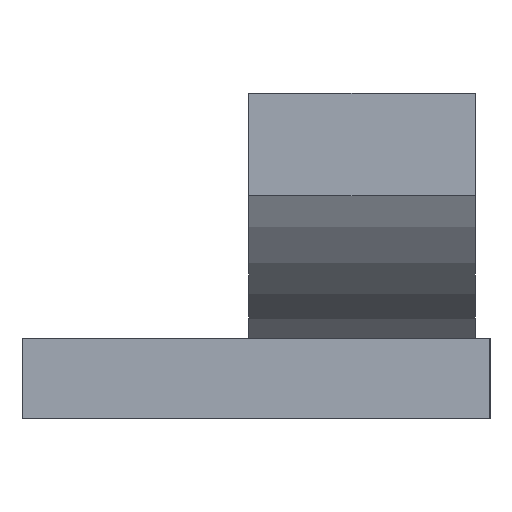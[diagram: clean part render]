
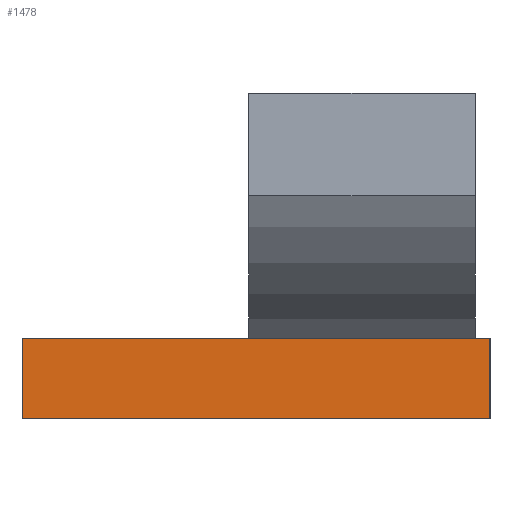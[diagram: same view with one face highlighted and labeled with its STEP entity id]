
A CAD part, left-side view. The second image highlights one B-rep face of the part: STEP entity #1478.
In plain terms, the highlighted planar face has unit normal (-1, 0, 0).
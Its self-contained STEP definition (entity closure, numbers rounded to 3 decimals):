
#157 = PLANE('',#158);
#158 = AXIS2_PLACEMENT_3D('',#159,#160,#161);
#159 = CARTESIAN_POINT('',(18.5,-26.4,36.));
#160 = DIRECTION('',(0.,0.,1.));
#161 = DIRECTION('',(1.,0.,0.));
#624 = EDGE_CURVE('',#625,#627,#629,.T.);
#625 = VERTEX_POINT('',#626);
#626 = CARTESIAN_POINT('',(18.5,-26.4,36.));
#627 = VERTEX_POINT('',#628);
#628 = CARTESIAN_POINT('',(18.5,-13.6,36.));
#629 = SURFACE_CURVE('',#630,(#634,#641),.PCURVE_S1.);
#630 = LINE('',#631,#632);
#631 = CARTESIAN_POINT('',(18.5,-26.4,36.));
#632 = VECTOR('',#633,1.);
#633 = DIRECTION('',(0.,1.,0.));
#634 = PCURVE('',#157,#635);
#635 = DEFINITIONAL_REPRESENTATION('',(#636),#640);
#636 = LINE('',#637,#638);
#637 = CARTESIAN_POINT('',(0.,0.));
#638 = VECTOR('',#639,1.);
#639 = DIRECTION('',(0.,1.));
#640 = ( GEOMETRIC_REPRESENTATION_CONTEXT(2) 
PARAMETRIC_REPRESENTATION_CONTEXT() REPRESENTATION_CONTEXT('2D SPACE',''
  ) );
#641 = PCURVE('',#642,#647);
#642 = PLANE('',#643);
#643 = AXIS2_PLACEMENT_3D('',#644,#645,#646);
#644 = CARTESIAN_POINT('',(18.5,-26.4,33.8));
#645 = DIRECTION('',(1.,0.,0.));
#646 = DIRECTION('',(0.,0.,1.));
#647 = DEFINITIONAL_REPRESENTATION('',(#648),#652);
#648 = LINE('',#649,#650);
#649 = CARTESIAN_POINT('',(2.2,0.));
#650 = VECTOR('',#651,1.);
#651 = DIRECTION('',(0.,-1.));
#652 = ( GEOMETRIC_REPRESENTATION_CONTEXT(2) 
PARAMETRIC_REPRESENTATION_CONTEXT() REPRESENTATION_CONTEXT('2D SPACE',''
  ) );
#670 = PLANE('',#671);
#671 = AXIS2_PLACEMENT_3D('',#672,#673,#674);
#672 = CARTESIAN_POINT('',(18.5,-26.4,33.8));
#673 = DIRECTION('',(0.,1.,0.));
#674 = DIRECTION('',(0.,0.,1.));
#724 = PLANE('',#725);
#725 = AXIS2_PLACEMENT_3D('',#726,#727,#728);
#726 = CARTESIAN_POINT('',(18.5,-13.6,33.8));
#727 = DIRECTION('',(0.,1.,0.));
#728 = DIRECTION('',(0.,0.,1.));
#1478 = ADVANCED_FACE('',(#1479),#642,.F.);
#1479 = FACE_BOUND('',#1480,.F.);
#1480 = EDGE_LOOP('',(#1481,#1504,#1532,#1553));
#1481 = ORIENTED_EDGE('',*,*,#1482,.F.);
#1482 = EDGE_CURVE('',#1483,#625,#1485,.T.);
#1483 = VERTEX_POINT('',#1484);
#1484 = CARTESIAN_POINT('',(18.5,-26.4,33.8));
#1485 = SURFACE_CURVE('',#1486,(#1490,#1497),.PCURVE_S1.);
#1486 = LINE('',#1487,#1488);
#1487 = CARTESIAN_POINT('',(18.5,-26.4,33.8));
#1488 = VECTOR('',#1489,1.);
#1489 = DIRECTION('',(0.,0.,1.));
#1490 = PCURVE('',#642,#1491);
#1491 = DEFINITIONAL_REPRESENTATION('',(#1492),#1496);
#1492 = LINE('',#1493,#1494);
#1493 = CARTESIAN_POINT('',(0.,0.));
#1494 = VECTOR('',#1495,1.);
#1495 = DIRECTION('',(1.,0.));
#1496 = ( GEOMETRIC_REPRESENTATION_CONTEXT(2) 
PARAMETRIC_REPRESENTATION_CONTEXT() REPRESENTATION_CONTEXT('2D SPACE',''
  ) );
#1497 = PCURVE('',#670,#1498);
#1498 = DEFINITIONAL_REPRESENTATION('',(#1499),#1503);
#1499 = LINE('',#1500,#1501);
#1500 = CARTESIAN_POINT('',(0.,0.));
#1501 = VECTOR('',#1502,1.);
#1502 = DIRECTION('',(1.,0.));
#1503 = ( GEOMETRIC_REPRESENTATION_CONTEXT(2) 
PARAMETRIC_REPRESENTATION_CONTEXT() REPRESENTATION_CONTEXT('2D SPACE',''
  ) );
#1504 = ORIENTED_EDGE('',*,*,#1505,.T.);
#1505 = EDGE_CURVE('',#1483,#1506,#1508,.T.);
#1506 = VERTEX_POINT('',#1507);
#1507 = CARTESIAN_POINT('',(18.5,-13.6,33.8));
#1508 = SURFACE_CURVE('',#1509,(#1513,#1520),.PCURVE_S1.);
#1509 = LINE('',#1510,#1511);
#1510 = CARTESIAN_POINT('',(18.5,-26.4,33.8));
#1511 = VECTOR('',#1512,1.);
#1512 = DIRECTION('',(0.,1.,0.));
#1513 = PCURVE('',#642,#1514);
#1514 = DEFINITIONAL_REPRESENTATION('',(#1515),#1519);
#1515 = LINE('',#1516,#1517);
#1516 = CARTESIAN_POINT('',(0.,0.));
#1517 = VECTOR('',#1518,1.);
#1518 = DIRECTION('',(0.,-1.));
#1519 = ( GEOMETRIC_REPRESENTATION_CONTEXT(2) 
PARAMETRIC_REPRESENTATION_CONTEXT() REPRESENTATION_CONTEXT('2D SPACE',''
  ) );
#1520 = PCURVE('',#1521,#1526);
#1521 = PLANE('',#1522);
#1522 = AXIS2_PLACEMENT_3D('',#1523,#1524,#1525);
#1523 = CARTESIAN_POINT('',(18.5,-26.4,33.8));
#1524 = DIRECTION('',(0.,0.,1.));
#1525 = DIRECTION('',(1.,0.,0.));
#1526 = DEFINITIONAL_REPRESENTATION('',(#1527),#1531);
#1527 = LINE('',#1528,#1529);
#1528 = CARTESIAN_POINT('',(0.,0.));
#1529 = VECTOR('',#1530,1.);
#1530 = DIRECTION('',(0.,1.));
#1531 = ( GEOMETRIC_REPRESENTATION_CONTEXT(2) 
PARAMETRIC_REPRESENTATION_CONTEXT() REPRESENTATION_CONTEXT('2D SPACE',''
  ) );
#1532 = ORIENTED_EDGE('',*,*,#1533,.T.);
#1533 = EDGE_CURVE('',#1506,#627,#1534,.T.);
#1534 = SURFACE_CURVE('',#1535,(#1539,#1546),.PCURVE_S1.);
#1535 = LINE('',#1536,#1537);
#1536 = CARTESIAN_POINT('',(18.5,-13.6,33.8));
#1537 = VECTOR('',#1538,1.);
#1538 = DIRECTION('',(0.,0.,1.));
#1539 = PCURVE('',#642,#1540);
#1540 = DEFINITIONAL_REPRESENTATION('',(#1541),#1545);
#1541 = LINE('',#1542,#1543);
#1542 = CARTESIAN_POINT('',(0.,-12.8));
#1543 = VECTOR('',#1544,1.);
#1544 = DIRECTION('',(1.,0.));
#1545 = ( GEOMETRIC_REPRESENTATION_CONTEXT(2) 
PARAMETRIC_REPRESENTATION_CONTEXT() REPRESENTATION_CONTEXT('2D SPACE',''
  ) );
#1546 = PCURVE('',#724,#1547);
#1547 = DEFINITIONAL_REPRESENTATION('',(#1548),#1552);
#1548 = LINE('',#1549,#1550);
#1549 = CARTESIAN_POINT('',(0.,0.));
#1550 = VECTOR('',#1551,1.);
#1551 = DIRECTION('',(1.,0.));
#1552 = ( GEOMETRIC_REPRESENTATION_CONTEXT(2) 
PARAMETRIC_REPRESENTATION_CONTEXT() REPRESENTATION_CONTEXT('2D SPACE',''
  ) );
#1553 = ORIENTED_EDGE('',*,*,#624,.F.);
